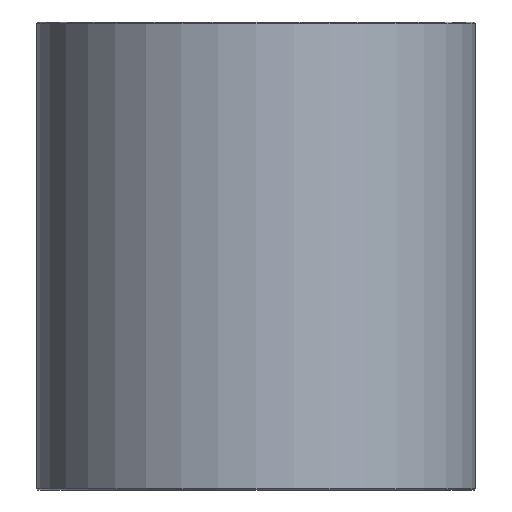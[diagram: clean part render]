
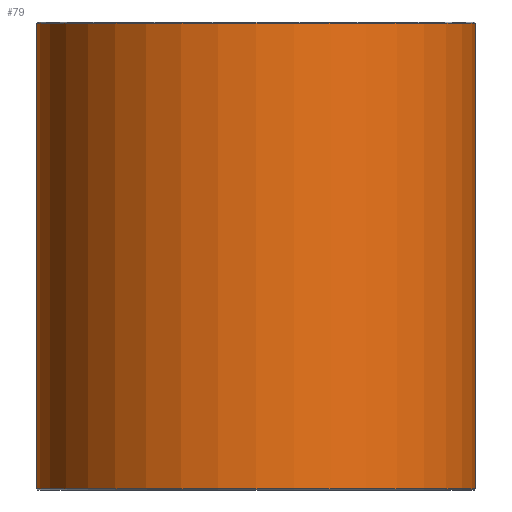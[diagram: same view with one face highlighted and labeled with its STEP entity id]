
A CAD part, front view. The second image highlights one B-rep face of the part: STEP entity #79.
In plain terms, the highlighted cylindrical face has radius 37.5 mm (diameter 75 mm), a full revolution.
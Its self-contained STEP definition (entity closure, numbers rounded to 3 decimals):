
#79=ADVANCED_FACE('',(#96,#97),#98,.T.);
#96=FACE_OUTER_BOUND('',#120,.T.);
#97=FACE_OUTER_BOUND('',#121,.T.);
#98=CYLINDRICAL_SURFACE('',#122,37.5);
#120=EDGE_LOOP('',(#152));
#121=EDGE_LOOP('',(#153));
#122=AXIS2_PLACEMENT_3D('',#154,#155,#156);
#152=ORIENTED_EDGE('',*,*,#178,.T.);
#153=ORIENTED_EDGE('',*,*,#177,.T.);
#154=CARTESIAN_POINT('',(0.,0.0,80.0));
#155=DIRECTION('',(0.0,0.0,-1.0));
#156=DIRECTION('',(-1.0,0.0,0.0));
#177=EDGE_CURVE('',#190,#190,#191,.T.);
#178=EDGE_CURVE('',#192,#192,#193,.F.);
#190=VERTEX_POINT('',#206);
#191=CIRCLE('',#207,37.5);
#192=VERTEX_POINT('',#208);
#193=CIRCLE('',#209,37.5);
#206=CARTESIAN_POINT('',(37.5,0.0,0.2));
#207=AXIS2_PLACEMENT_3D('',#227,#228,#229);
#208=CARTESIAN_POINT('',(37.5,0.,79.8));
#209=AXIS2_PLACEMENT_3D('',#230,#231,#232);
#227=CARTESIAN_POINT('',(0.,0.0,0.2));
#228=DIRECTION('',(0.0,0.0,1.0));
#229=DIRECTION('',(1.0,0.0,0.0));
#230=CARTESIAN_POINT('',(0.,0.0,79.8));
#231=DIRECTION('',(0.0,0.0,1.0));
#232=DIRECTION('',(1.0,0.0,0.0));
